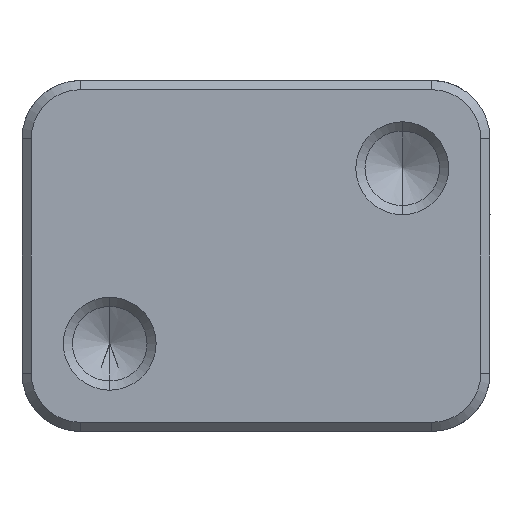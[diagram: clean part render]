
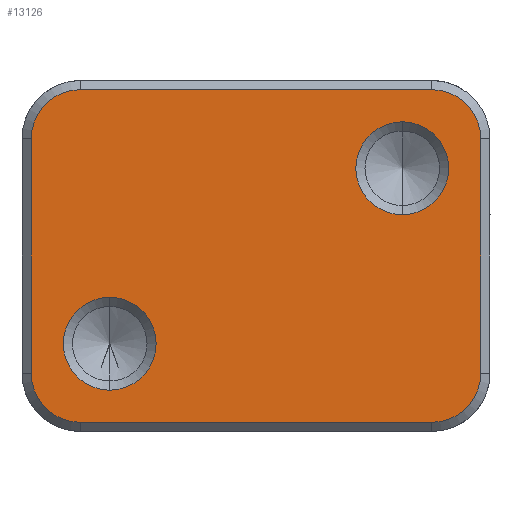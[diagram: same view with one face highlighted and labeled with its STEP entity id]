
A CAD part, front view. The second image highlights one B-rep face of the part: STEP entity #13126.
In plain terms, the highlighted planar face has unit normal (0, -1, 0).
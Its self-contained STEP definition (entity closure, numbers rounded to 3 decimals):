
#252 = VERTEX_POINT ( 'NONE', #8471 ) ;
#760 = ORIENTED_EDGE ( 'NONE', *, *, #15534, .F. ) ;
#1046 = CARTESIAN_POINT ( 'NONE',  ( -32., 0., -24.012 ) ) ;
#1123 = DIRECTION ( 'NONE',  ( -1., 0., 0. ) ) ;
#1235 = EDGE_CURVE ( 'NONE', #4688, #1797, #6047, .T. ) ;
#1797 = VERTEX_POINT ( 'NONE', #13510 ) ;
#1860 = CARTESIAN_POINT ( 'NONE',  ( 24.001, 0., 22.74 ) ) ;
#2007 = FACE_OUTER_BOUND ( 'NONE', #6806, .T. ) ;
#2114 = AXIS2_PLACEMENT_3D ( 'NONE', #3883, #12372, #11180 ) ;
#2130 = CIRCLE ( 'NONE', #9492, 6.75 ) ;
#2147 = CARTESIAN_POINT ( 'NONE',  ( 20.001, 0., 11.99 ) ) ;
#2191 = EDGE_LOOP ( 'NONE', ( #5182, #9283 ) ) ;
#2484 = DIRECTION ( 'NONE',  ( 0., 0., 1. ) ) ;
#2693 = DIRECTION ( 'NONE',  ( 0., 1., 0. ) ) ;
#2774 = CARTESIAN_POINT ( 'NONE',  ( -20.001, 0., -12.012 ) ) ;
#2794 = CARTESIAN_POINT ( 'NONE',  ( 20.001, 0., 5.641 ) ) ;
#3276 = CARTESIAN_POINT ( 'NONE',  ( -24.001, 0., 15.99 ) ) ;
#3295 = VERTEX_POINT ( 'NONE', #13187 ) ;
#3435 = ORIENTED_EDGE ( 'NONE', *, *, #7995, .F. ) ;
#3704 = EDGE_CURVE ( 'NONE', #12994, #14262, #8055, .T. ) ;
#3761 = ORIENTED_EDGE ( 'NONE', *, *, #14558, .T. ) ;
#3883 = CARTESIAN_POINT ( 'NONE',  ( -20.001, 0., -12.012 ) ) ;
#3910 = AXIS2_PLACEMENT_3D ( 'NONE', #13890, #4127, #12698 ) ;
#4046 = CARTESIAN_POINT ( 'NONE',  ( 24.001, 0., 15.99 ) ) ;
#4127 = DIRECTION ( 'NONE',  ( 0., 1., 0. ) ) ;
#4190 = EDGE_CURVE ( 'NONE', #14262, #12994, #5770, .T. ) ;
#4249 = ORIENTED_EDGE ( 'NONE', *, *, #9833, .F. ) ;
#4334 = LINE ( 'NONE', #11634, #6670 ) ;
#4413 = CIRCLE ( 'NONE', #13272, 6.75 ) ;
#4446 = EDGE_CURVE ( 'NONE', #6217, #10405, #6328, .T. ) ;
#4531 = DIRECTION ( 'NONE',  ( 0., 1., 0. ) ) ;
#4661 = DIRECTION ( 'NONE',  ( 0., 0., -1. ) ) ;
#4688 = VERTEX_POINT ( 'NONE', #6097 ) ;
#4849 = VERTEX_POINT ( 'NONE', #12771 ) ;
#5006 = AXIS2_PLACEMENT_3D ( 'NONE', #2774, #2693, #12218 ) ;
#5182 = ORIENTED_EDGE ( 'NONE', *, *, #1235, .T. ) ;
#5212 = VECTOR ( 'NONE', #11260, 1000. ) ;
#5254 = ORIENTED_EDGE ( 'NONE', *, *, #4190, .T. ) ;
#5391 = CIRCLE ( 'NONE', #14258, 6.75 ) ;
#5659 = DIRECTION ( 'NONE',  ( 0., -1., 0. ) ) ;
#5770 = CIRCLE ( 'NONE', #14613, 6.35 ) ;
#6047 = CIRCLE ( 'NONE', #5006, 6.35 ) ;
#6097 = CARTESIAN_POINT ( 'NONE',  ( -20.001, 0., -18.362 ) ) ;
#6217 = VERTEX_POINT ( 'NONE', #1860 ) ;
#6328 = LINE ( 'NONE', #6413, #5212 ) ;
#6413 = CARTESIAN_POINT ( 'NONE',  ( -32., 0., 22.74 ) ) ;
#6418 = ORIENTED_EDGE ( 'NONE', *, *, #4446, .T. ) ;
#6670 = VECTOR ( 'NONE', #9188, 1000. ) ;
#6806 = EDGE_LOOP ( 'NONE', ( #760, #3761, #12021, #6418, #8898, #7800, #3435, #4249 ) ) ;
#6924 = DIRECTION ( 'NONE',  ( 1., 0., 0. ) ) ;
#7146 = LINE ( 'NONE', #10872, #9237 ) ;
#7194 = ORIENTED_EDGE ( 'NONE', *, *, #3704, .T. ) ;
#7800 = ORIENTED_EDGE ( 'NONE', *, *, #11433, .T. ) ;
#7979 = VECTOR ( 'NONE', #2484, 1000. ) ;
#7995 = EDGE_CURVE ( 'NONE', #11213, #8961, #5391, .T. ) ;
#8055 = CIRCLE ( 'NONE', #12603, 6.35 ) ;
#8324 = CARTESIAN_POINT ( 'NONE',  ( 20.001, 0., 11.99 ) ) ;
#8359 = VERTEX_POINT ( 'NONE', #11198 ) ;
#8447 = CIRCLE ( 'NONE', #2114, 6.35 ) ;
#8463 = DIRECTION ( 'NONE',  ( 0., 0., 1. ) ) ;
#8471 = CARTESIAN_POINT ( 'NONE',  ( 30.75, 0., -16.012 ) ) ;
#8537 = DIRECTION ( 'NONE',  ( 0., 1., 0. ) ) ;
#8566 = DIRECTION ( 'NONE',  ( 0., -1., 0. ) ) ;
#8898 = ORIENTED_EDGE ( 'NONE', *, *, #13689, .T. ) ;
#8906 = DIRECTION ( 'NONE',  ( 0., -1., 0. ) ) ;
#8961 = VERTEX_POINT ( 'NONE', #14315 ) ;
#9188 = DIRECTION ( 'NONE',  ( 0., 0., -1. ) ) ;
#9234 = DIRECTION ( 'NONE',  ( 0., 0., -1. ) ) ;
#9237 = VECTOR ( 'NONE', #1123, 1000. ) ;
#9283 = ORIENTED_EDGE ( 'NONE', *, *, #9917, .T. ) ;
#9492 = AXIS2_PLACEMENT_3D ( 'NONE', #3276, #5659, #12887 ) ;
#9549 = FACE_BOUND ( 'NONE', #12031, .T. ) ;
#9833 = EDGE_CURVE ( 'NONE', #4849, #11213, #7146, .T. ) ;
#9886 = CARTESIAN_POINT ( 'NONE',  ( -24.001, 0., -22.762 ) ) ;
#9917 = EDGE_CURVE ( 'NONE', #1797, #4688, #8447, .T. ) ;
#10405 = VERTEX_POINT ( 'NONE', #14486 ) ;
#10872 = CARTESIAN_POINT ( 'NONE',  ( -32., 0., -22.762 ) ) ;
#10919 = DIRECTION ( 'NONE',  ( 0., 1., 0. ) ) ;
#10973 = LINE ( 'NONE', #12478, #7979 ) ;
#11180 = DIRECTION ( 'NONE',  ( 0., 0., -1. ) ) ;
#11198 = CARTESIAN_POINT ( 'NONE',  ( -30.75, 0., 15.99 ) ) ;
#11213 = VERTEX_POINT ( 'NONE', #9886 ) ;
#11260 = DIRECTION ( 'NONE',  ( -1., 0., 0. ) ) ;
#11433 = EDGE_CURVE ( 'NONE', #8359, #8961, #4334, .T. ) ;
#11438 = DIRECTION ( 'NONE',  ( 0., 0., 1. ) ) ;
#11634 = CARTESIAN_POINT ( 'NONE',  ( -30.75, 0., -24.012 ) ) ;
#12021 = ORIENTED_EDGE ( 'NONE', *, *, #13981, .T. ) ;
#12023 = CIRCLE ( 'NONE', #3910, 6.75 ) ;
#12031 = EDGE_LOOP ( 'NONE', ( #7194, #5254 ) ) ;
#12102 = CARTESIAN_POINT ( 'NONE',  ( -24.001, 0., -16.012 ) ) ;
#12218 = DIRECTION ( 'NONE',  ( 0., 0., -1. ) ) ;
#12364 = CARTESIAN_POINT ( 'NONE',  ( 20.001, 0., 18.34 ) ) ;
#12372 = DIRECTION ( 'NONE',  ( 0., 1., 0. ) ) ;
#12478 = CARTESIAN_POINT ( 'NONE',  ( 30.75, 0., -24.012 ) ) ;
#12603 = AXIS2_PLACEMENT_3D ( 'NONE', #8324, #10919, #4661 ) ;
#12698 = DIRECTION ( 'NONE',  ( 0., 0., 1. ) ) ;
#12771 = CARTESIAN_POINT ( 'NONE',  ( 24.001, 0., -22.762 ) ) ;
#12887 = DIRECTION ( 'NONE',  ( 0., 0., 1. ) ) ;
#12994 = VERTEX_POINT ( 'NONE', #2794 ) ;
#13126 = ADVANCED_FACE ( 'NONE', ( #15541, #2007, #9549 ), #14374, .T. ) ;
#13187 = CARTESIAN_POINT ( 'NONE',  ( 30.75, 0., 15.99 ) ) ;
#13272 = AXIS2_PLACEMENT_3D ( 'NONE', #4046, #8906, #11438 ) ;
#13510 = CARTESIAN_POINT ( 'NONE',  ( -20.001, 0., -5.663 ) ) ;
#13689 = EDGE_CURVE ( 'NONE', #10405, #8359, #2130, .T. ) ;
#13890 = CARTESIAN_POINT ( 'NONE',  ( 24.001, 0., -16.012 ) ) ;
#13981 = EDGE_CURVE ( 'NONE', #3295, #6217, #4413, .T. ) ;
#14258 = AXIS2_PLACEMENT_3D ( 'NONE', #12102, #8537, #8463 ) ;
#14262 = VERTEX_POINT ( 'NONE', #12364 ) ;
#14315 = CARTESIAN_POINT ( 'NONE',  ( -30.75, 0., -16.012 ) ) ;
#14374 = PLANE ( 'NONE',  #15292 ) ;
#14486 = CARTESIAN_POINT ( 'NONE',  ( -24.001, 0., 22.74 ) ) ;
#14558 = EDGE_CURVE ( 'NONE', #252, #3295, #10973, .T. ) ;
#14613 = AXIS2_PLACEMENT_3D ( 'NONE', #2147, #4531, #9234 ) ;
#15292 = AXIS2_PLACEMENT_3D ( 'NONE', #1046, #8566, #6924 ) ;
#15534 = EDGE_CURVE ( 'NONE', #252, #4849, #12023, .T. ) ;
#15541 = FACE_BOUND ( 'NONE', #2191, .T. ) ;
